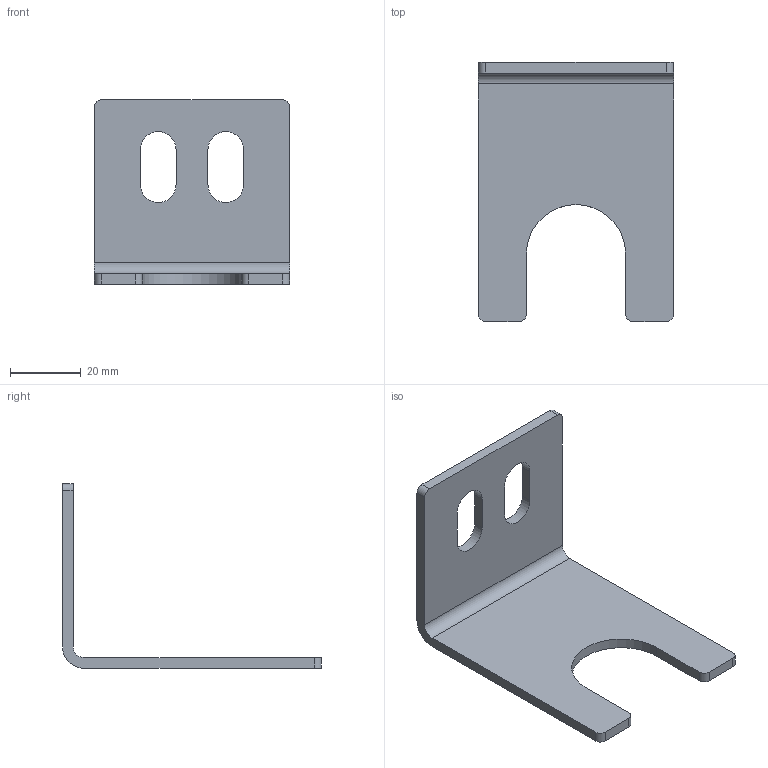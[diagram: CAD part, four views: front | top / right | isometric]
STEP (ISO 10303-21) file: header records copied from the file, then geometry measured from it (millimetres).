
FILE_DESCRIPTION((''),'2;1');
FILE_NAME('F:\AirCom-Produktdokumentation\Befestigungswinkel-Muttern\CAD\CAD AirCom\3D\B-BW28-01.stp','2008-09-29T16:27:24',('Frank Schroers'),(''),'Autodesk Inventor 2008','Autodesk Inventor 2008','');
FILE_SCHEMA(('AUTOMOTIVE_DESIGN { 1 0 10303 214 1 1 1 1 }'));
Length unit declared in the file: millimetre
Products named in the file (1): B-BW28-01
Bounding box: 55 x 73 x 52 mm (x, y, z)
Volume: 16205 mm3; surface area: 12308.7 mm2
Topology: 1 solids, 1 shells, 28 faces, 78 edges, 52 vertices
Faces by surface type: plane 15, cylinder 13
Entity records: 942 total; most frequent: DIRECTION 162, CARTESIAN_POINT 159, ORIENTED_EDGE 156, EDGE_CURVE 78, AXIS2_PLACEMENT_3D 55, VERTEX_POINT 52, VECTOR 52, LINE 52
